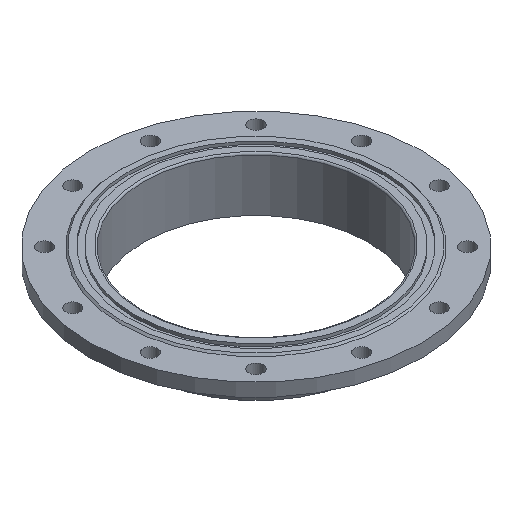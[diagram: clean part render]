
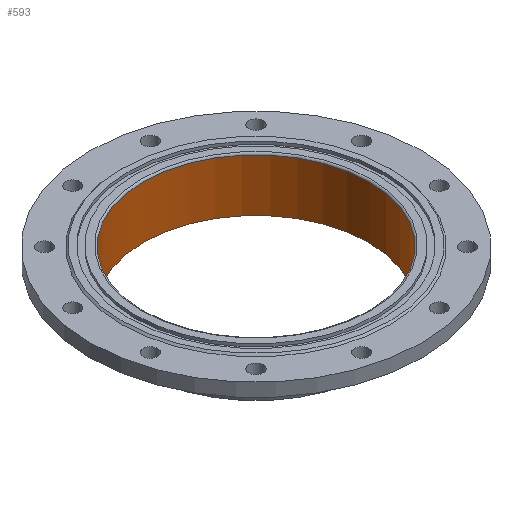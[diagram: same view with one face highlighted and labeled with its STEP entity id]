
A CAD part, isometric view. The second image highlights one B-rep face of the part: STEP entity #593.
In plain terms, the highlighted cylindrical face has radius 197.2 mm (diameter 394.4 mm), a full revolution.
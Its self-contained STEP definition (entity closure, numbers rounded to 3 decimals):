
#35=LINE('',#1062,#54);
#54=VECTOR('',#878,197.2);
#72=CYLINDRICAL_SURFACE('',#693,197.2);
#123=FACE_OUTER_BOUND('',#165,.T.);
#165=EDGE_LOOP('',(#518,#519,#520,#521,#522));
#240=CIRCLE('',#692,197.2);
#241=CIRCLE('',#694,197.2);
#242=CIRCLE('',#695,197.2);
#304=VERTEX_POINT('',#1055);
#305=VERTEX_POINT('',#1059);
#306=VERTEX_POINT('',#1060);
#383=EDGE_CURVE('',#304,#304,#240,.T.);
#384=EDGE_CURVE('',#305,#306,#241,.T.);
#385=EDGE_CURVE('',#306,#304,#35,.T.);
#386=EDGE_CURVE('',#306,#305,#242,.T.);
#518=ORIENTED_EDGE('',*,*,#384,.T.);
#519=ORIENTED_EDGE('',*,*,#385,.T.);
#520=ORIENTED_EDGE('',*,*,#383,.F.);
#521=ORIENTED_EDGE('',*,*,#385,.F.);
#522=ORIENTED_EDGE('',*,*,#386,.T.);
#593=ADVANCED_FACE('',(#123),#72,.F.);
#692=AXIS2_PLACEMENT_3D('',#1057,#872,#873);
#693=AXIS2_PLACEMENT_3D('',#1058,#874,#875);
#694=AXIS2_PLACEMENT_3D('',#1061,#876,#877);
#695=AXIS2_PLACEMENT_3D('',#1063,#879,#880);
#872=DIRECTION('center_axis',(0.,0.,-1.));
#873=DIRECTION('ref_axis',(-1.,0.,0.));
#874=DIRECTION('center_axis',(0.,0.,-1.));
#875=DIRECTION('ref_axis',(-1.,0.,0.));
#876=DIRECTION('center_axis',(0.,0.,-1.));
#877=DIRECTION('ref_axis',(1.,0.,0.));
#878=DIRECTION('',(0.,0.,1.));
#879=DIRECTION('center_axis',(0.,0.,-1.));
#880=DIRECTION('ref_axis',(1.,0.,0.));
#1055=CARTESIAN_POINT('',(197.2,0.,-3.));
#1057=CARTESIAN_POINT('Origin',(0.,0.,-3.));
#1058=CARTESIAN_POINT('Origin',(0.,0.,0.));
#1059=CARTESIAN_POINT('',(-197.2,0.,-95.));
#1060=CARTESIAN_POINT('',(197.2,0.,-95.));
#1061=CARTESIAN_POINT('Origin',(0.,0.,-95.));
#1062=CARTESIAN_POINT('',(197.2,0.,0.));
#1063=CARTESIAN_POINT('Origin',(0.,0.,-95.));
